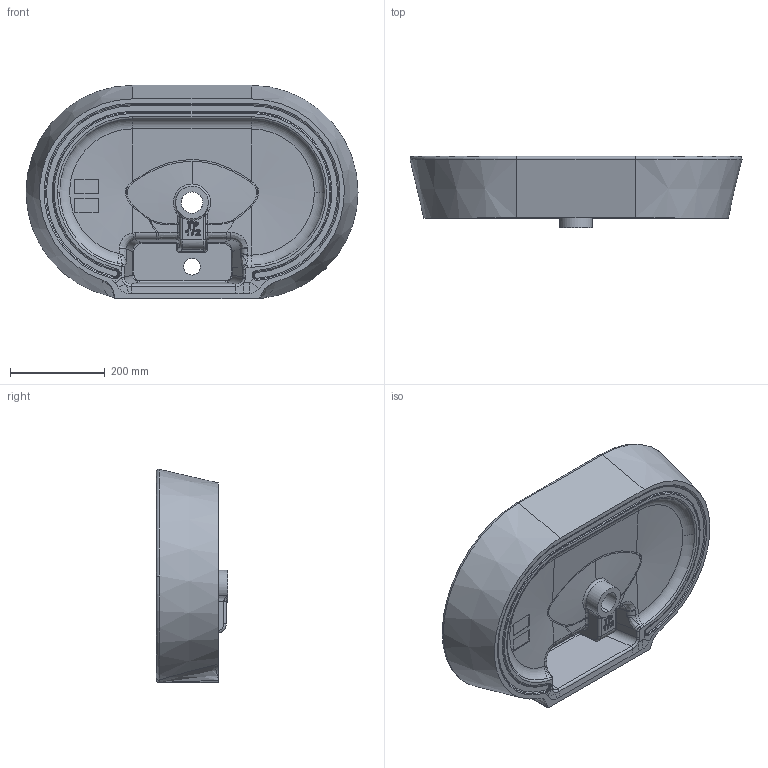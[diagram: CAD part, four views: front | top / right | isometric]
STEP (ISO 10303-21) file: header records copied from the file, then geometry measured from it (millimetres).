
FILE_DESCRIPTION (( 'STEP AP203' ), '1' );
FILE_NAME ('TP172-00CB00E-0000.STEP', '2023-04-27T08:34:10', ( '' ), ( '' ), 'SwSTEP 2.0', 'SolidWorks 2023', '' );
FILE_SCHEMA (( 'CONFIG_CONTROL_DESIGN' ));
Length unit declared in the file: millimetre
Products named in the file (1): TP172-00CB00E-0000
Bounding box: 700.18 x 150 x 450.09 mm (x, y, z)
Volume: 14999200.4 mm3; surface area: 905637 mm2
Topology: 2 solids, 2 shells, 569 faces, 1355 edges, 763 vertices
Faces by surface type: bspline 198, cylinder 165, plane 89, torus 70, sphere 37, cone 10
Entity records: 33512 total; most frequent: CARTESIAN_POINT 21868, ORIENTED_EDGE 2626, DIRECTION 2195, EDGE_CURVE 1313, AXIS2_PLACEMENT_3D 913, VERTEX_POINT 758, EDGE_LOOP 585, FACE_OUTER_BOUND 569
